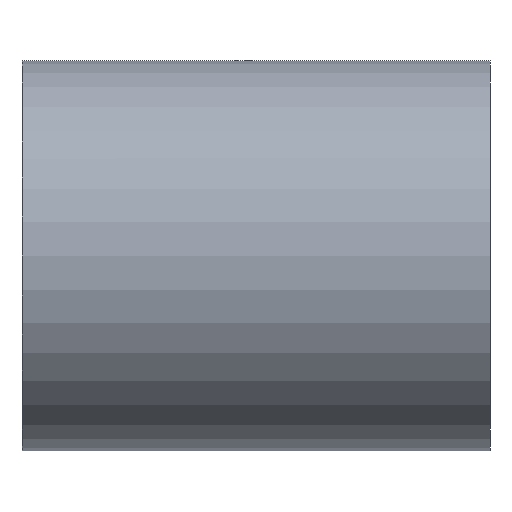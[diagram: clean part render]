
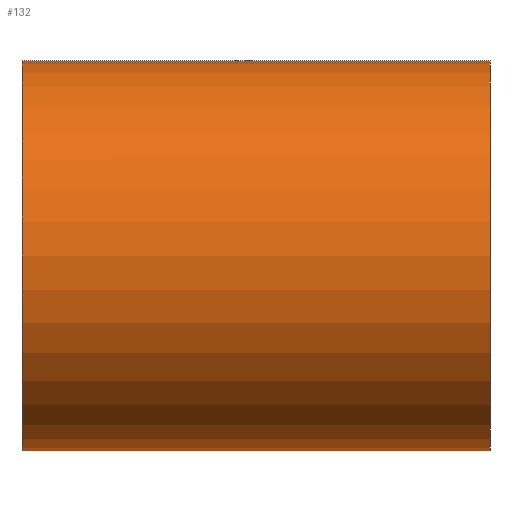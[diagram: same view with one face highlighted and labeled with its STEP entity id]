
A CAD part, front view. The second image highlights one B-rep face of the part: STEP entity #132.
In plain terms, the highlighted cylindrical face has radius 500 mm (diameter 1000 mm), a partial arc.
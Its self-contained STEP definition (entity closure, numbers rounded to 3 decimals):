
#132=ADVANCED_FACE('',(#260),#261,.T.);
#260=FACE_OUTER_BOUND('',#415,.T.);
#261=CYLINDRICAL_SURFACE('',#416,500.0);
#415=EDGE_LOOP('',(#739,#740,#741,#742));
#416=AXIS2_PLACEMENT_3D('',#743,#744,#745);
#739=ORIENTED_EDGE('',*,*,#827,.T.);
#740=ORIENTED_EDGE('',*,*,#968,.F.);
#741=ORIENTED_EDGE('',*,*,#829,.T.);
#742=ORIENTED_EDGE('',*,*,#969,.F.);
#743=CARTESIAN_POINT('',(0.0,0.0,0.0));
#744=DIRECTION('',(1.0,0.0,0.0));
#745=DIRECTION('',(0.0,0.0,-1.0));
#827=EDGE_CURVE('',#973,#974,#975,.T.);
#829=EDGE_CURVE('',#978,#976,#979,.T.);
#968=EDGE_CURVE('',#978,#974,#1186,.T.);
#969=EDGE_CURVE('',#973,#976,#1187,.T.);
#973=VERTEX_POINT('',#1191);
#974=VERTEX_POINT('',#1192);
#975=LINE('',#1193,#1194);
#976=VERTEX_POINT('',#1195);
#978=VERTEX_POINT('',#1197);
#979=LINE('',#1198,#1199);
#1186=CIRCLE('',#1440,500.0);
#1187=CIRCLE('',#1441,500.0);
#1191=CARTESIAN_POINT('',(-600.0,0.0,-500.0));
#1192=CARTESIAN_POINT('',(600.0,0.0,-500.0));
#1193=CARTESIAN_POINT('',(0.0,0.,-500.0));
#1194=VECTOR('',#1444,1.0);
#1195=CARTESIAN_POINT('',(-600.0,0.,500.0));
#1197=CARTESIAN_POINT('',(600.0,0.,500.0));
#1198=CARTESIAN_POINT('',(0.0,0.,500.0));
#1199=VECTOR('',#1448,1.0);
#1440=AXIS2_PLACEMENT_3D('',#1690,#1691,#1692);
#1441=AXIS2_PLACEMENT_3D('',#1693,#1694,#1695);
#1444=DIRECTION('',(1.0,0.0,0.0));
#1448=DIRECTION('',(-1.0,-0.0,-0.0));
#1690=CARTESIAN_POINT('',(600.0,0.0,0.0));
#1691=DIRECTION('',(1.0,0.0,0.0));
#1692=DIRECTION('',(0.0,0.0,-1.0));
#1693=CARTESIAN_POINT('',(-600.0,0.0,0.0));
#1694=DIRECTION('',(-1.0,0.0,0.0));
#1695=DIRECTION('',(0.0,0.0,-1.0));
